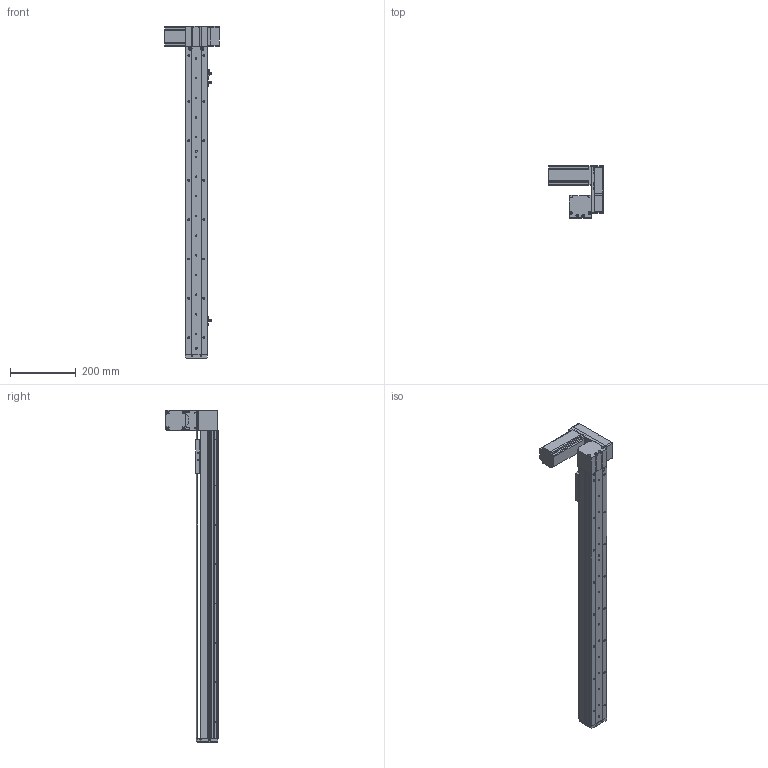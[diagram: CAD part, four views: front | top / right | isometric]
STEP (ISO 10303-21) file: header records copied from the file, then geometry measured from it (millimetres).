
FILE_DESCRIPTION (( 'STEP AP214' ), '1' );
FILE_NAME ('KSD68BS-S750-MLU-CM.STEP', '2019-11-06T06:28:53', ( '微软用户' ), ( '微软中国' ), 'SwSTEP 2.0', 'SolidWorks 2014', '' );
FILE_SCHEMA (( 'AUTOMOTIVE_DESIGN' ));
Length unit declared in the file: millimetre
Products named in the file (11): KSD68BS 750俴最菁啣圉猾敕; KSD68BS-S750-MLU-CM; 悵誘欶奻狟殏; 68宽马达安装板连板上折同步带; 68宽单导轨半封闭同步带主动轮座左; 68单导轨同步带半封闭端板; KSD68BS 750俴最裔啣圉猾敕; 覜茼え68遵圉猾敕; KSD68BS半封闭同步带传动导轨座; U倰嫖萇EEㄜSX672; 台达ECMA－C20604AS伺服电机（400W)
Assembly tree (12 placements, depth 2):
  KSD68BS-S750-MLU-CM
    KSD68BS 750俴最菁啣圉猾敕
    台达ECMA－C20604AS伺服电机（400W)
    U倰嫖萇EEㄜSX672  x3
    KSD68BS半封闭同步带传动导轨座
    覜茼え68遵圉猾敕
    KSD68BS 750俴最裔啣圉猾敕
    68单导轨同步带半封闭端板
    68宽单导轨半封闭同步带主动轮座左
    68宽马达安装板连板上折同步带
    悵誘欶奻狟殏
Bounding box: 167.2 x 159.5 x 1012 mm (x, y, z)
Volume: 2055644.6 mm3; surface area: 701979.9 mm2
Topology: 13 solids, 13 shells, 1338 faces, 3826 edges, 2486 vertices
Faces by surface type: cylinder 660, plane 595, cone 83
Entity records: 48534 total; most frequent: CARTESIAN_POINT 9122, ORIENTED_EDGE 6404, DIRECTION 6364, EDGE_CURVE 3202, AXIS2_PLACEMENT_3D 2280, VERTEX_POINT 2110, VECTOR 1804, LINE 1804
